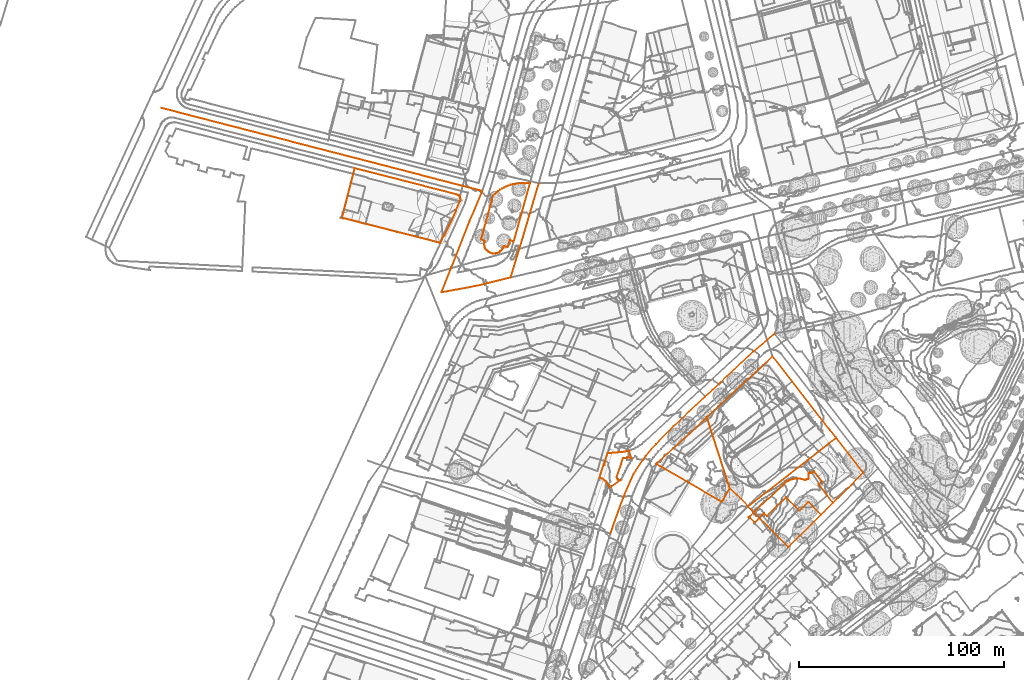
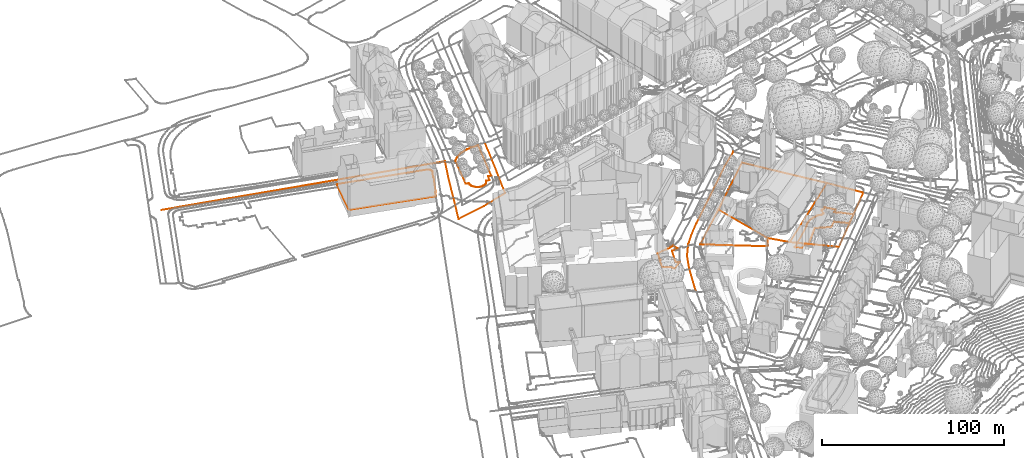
# Not in any storey, part 104 of 494: 13 proxies.
"""IFC2X3 model written with IfcOpenShell, lengths in metres."""

import ifcopenshell
import ifcopenshell.guid

model = None  # the IFC model being written
_history = None  # IfcOwnerHistory: only IFC2X3 demands one
_inside = {}  # id of a spatial element -> (the spatial element, [elements in it])
_under = {}  # id of a project, library or spatial element -> (it, [spatial elements below it])
_declared = {}  # id of a project -> (the project, [libraries it declares])
_typed = {}  # id of a type object -> (the type object, [elements of that type])
_made_of = {}  # id of a material, layer set ... -> (it, [elements and type objects made of it])


def new_model(schema):
    """Start an empty IFC model of exactly this schema.

    Asked for "IFC4X3", IfcOpenShell would pick the latest addendum, in which some entities
    have other attributes; the version numbers below select the first issue.
    IFC2X3 requires an IfcOwnerHistory on every rooted entity: one is made here for all.
    """
    global model, _history
    if schema == "IFC4X3":
        model = ifcopenshell.file(schema_version=(4, 3, 0, 0))
    else:
        model = ifcopenshell.file(schema=schema)
    _inside.clear()
    _under.clear()
    _declared.clear()
    _typed.clear()
    _made_of.clear()
    _history = None
    if model.schema == "IFC2X3":
        org = make("IfcOrganization", Name="unknown")
        user = make(
            "IfcPersonAndOrganization",
            ThePerson=make("IfcPerson", FamilyName="unknown"),
            TheOrganization=org,
        )
        app = make(
            "IfcApplication",
            ApplicationDeveloper=org,
            Version="unknown",
            ApplicationFullName="unknown",
            ApplicationIdentifier="unknown",
        )
        _history = make(
            "IfcOwnerHistory",
            OwningUser=user,
            OwningApplication=app,
            ChangeAction="ADDED",
            CreationDate=0,
        )
    return model


def make(cls, **values):
    """One entity of the class cls with the attributes given. An attribute that is None is left unset."""
    return model.create_entity(
        cls, **{name: value for name, value in values.items() if value is not None}
    )


def entity(cls, *values):
    """Any entity or typed value of the class cls, its attributes in the order of the schema. None: left unset."""
    e = model.create_entity(cls)
    for i, value in enumerate(values):
        if value is not None:
            e[i] = value
    return e


def rooted(cls, **values):
    """An entity with a GlobalId (a new one), such as an element, a storey or a relation."""
    return make(cls, GlobalId=ifcopenshell.guid.new(), OwnerHistory=_history, **values)


def si_unit(unit_type, name, prefix=None):
    """IfcSIUnit, for example si_unit("LENGTHUNIT", "METRE", prefix="MILLI")."""
    return make("IfcSIUnit", UnitType=unit_type, Prefix=prefix, Name=name)


def assignment(units):
    """IfcUnitAssignment: the units of a project."""
    return None if units is None else make("IfcUnitAssignment", Units=units)


def point(xyz):
    """IfcCartesianPoint."""
    return None if xyz is None else make("IfcCartesianPoint", Coordinates=xyz)


def direction(xyz):
    """IfcDirection."""
    return None if xyz is None else make("IfcDirection", DirectionRatios=xyz)


def frame(location, z_axis=None, x_axis=None):
    """IfcAxis2Placement3D, a coordinate frame: its origin and axes. An axis left out is left unset."""
    return make(
        "IfcAxis2Placement3D",
        Location=point(location),
        Axis=direction(z_axis),
        RefDirection=direction(x_axis),
    )


def origin_with_axes():
    """The frame at (0, 0, 0) with the z axis (0, 0, 1) and the x axis (1, 0, 0) written out."""
    return frame((0.0, 0.0, 0.0), z_axis=(0.0, 0.0, 1.0), x_axis=(1.0, 0.0, 0.0))


def place(relative_to, where):
    """IfcLocalPlacement: puts the frame where relative to a parent placement (None: the world)."""
    return make(
        "IfcLocalPlacement", PlacementRelTo=relative_to, RelativePlacement=where
    )


def context(
    kind, dimensions, precision=None, world=None, true_north=None, identifier=None
):
    """IfcGeometricRepresentationContext, for example the 3D "Model" context."""
    return make(
        "IfcGeometricRepresentationContext",
        ContextIdentifier=identifier,
        ContextType=kind,
        CoordinateSpaceDimension=dimensions,
        Precision=precision,
        WorldCoordinateSystem=world,
        TrueNorth=true_north,
    )


def subcontext(parent, identifier, kind, view, scale=None):
    """IfcGeometricRepresentationSubContext, for example "Body" below "Model"."""
    return make(
        "IfcGeometricRepresentationSubContext",
        ContextIdentifier=identifier,
        ContextType=kind,
        ParentContext=parent,
        TargetScale=scale,
        TargetView=view,
    )


def project(units=None, contexts=None):
    """IfcProject with its units and contexts."""
    return rooted(
        "IfcProject",
        Name="project",
        RepresentationContexts=contexts,
        UnitsInContext=assignment(units),
    )


def shape(context_of_items, identifier, shape_type, items):
    """IfcShapeRepresentation: the items that make up one representation, for example the "Body"."""
    return make(
        "IfcShapeRepresentation",
        ContextOfItems=context_of_items,
        RepresentationIdentifier=identifier,
        RepresentationType=shape_type,
        Items=items,
    )


def made_of(thing, what):
    """Note that an element or type object is made of a material, layer set ...; save() writes the relation."""
    if what is not None:
        _made_of.setdefault(what.id(), (what, []))[1].append(thing)
    return thing


def element(
    cls,
    number,
    at=None,
    inside=None,
    cuts=None,
    type_object=None,
    material=None,
    context=None,
    identifier="Body",
    shape_type=None,
    held_by="IfcProductDefinitionShape",
    body=None,
    shapes=None,
    **own,
):
    """One element of the class cls, such as IfcWall. Its Tag is "e" and its number.

    at: its placement. inside: the storey or other place that contains it. cuts: it is an
    opening in that element (IfcRelVoidsElement). A single representation is given by context,
    identifier, shape_type and body (its items); several are given by shapes. held_by: the class
    of the entity that holds the representations. save() writes the other relations.
    """
    e = rooted(cls, Tag="e%d" % number, ObjectPlacement=at, **own)
    if body is not None:
        shapes = [shape(context, identifier, shape_type, body)]
    if shapes is not None:
        e.Representation = make(held_by, Representations=shapes)
    if inside is not None:
        _inside.setdefault(inside.id(), (inside, []))[1].append(e)
    if cuts is not None:
        rooted(
            "IfcRelVoidsElement", RelatingBuildingElement=cuts, RelatedOpeningElement=e
        )
    if type_object is not None:
        _typed.setdefault(type_object.id(), (type_object, []))[1].append(e)
    return made_of(e, material)


def aggregate(whole, parts):
    """IfcRelAggregates: a whole, such as a stair, and the parts it consists of."""
    return rooted("IfcRelAggregates", RelatingObject=whole, RelatedObjects=parts)


def save(model, path):
    """Write the relations noted so far, then the file.

    IfcRelAggregates (storeys below a building ...), IfcRelContainedInSpatialStructure (elements
    in a storey), IfcRelDefinesByType, IfcRelAssociatesMaterial and IfcRelDeclares: one each for
    every whole, place, type object, material and project.
    """
    for whole, parts in _under.values():
        aggregate(whole, parts)
    for where, things in _inside.values():
        rooted(
            "IfcRelContainedInSpatialStructure",
            RelatedElements=things,
            RelatingStructure=where,
        )
    for kind, things in _typed.values():
        rooted("IfcRelDefinesByType", RelatedObjects=things, RelatingType=kind)
    for what, things in _made_of.values():
        rooted("IfcRelAssociatesMaterial", RelatedObjects=things, RelatingMaterial=what)
    for by, libraries in _declared.values():
        rooted("IfcRelDeclares", RelatingContext=by, RelatedDefinitions=libraries)
    model.write(path)


model = new_model("IFC2X3")

# Units and contexts
model_context = context("Model", 3, precision=1e-05, world=origin_with_axes())
body_context = subcontext(model_context, "Body", "Model", "MODEL_VIEW")
ifc_project = project(units=[si_unit("AREAUNIT", "SQUARE_METRE"), si_unit("LENGTHUNIT", "METRE")], contexts=[model_context])

# Proxies
proxy_1_placement = place(None, frame((30.7997320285, 308.9937337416, 538.306), z_axis=(0.0, 0.0, 1.0), x_axis=(1.0, 0.0, 0.0)))
element("IfcBuildingElementProxy", 1, at=proxy_1_placement, Name="Road 0", ObjectType="NOTDEFINED", context=body_context, shape_type="GeometricCurveSet", body=[
    entity("IfcGeometricCurveSet", [entity("IfcPolyline", [entity("IfcCartesianPoint", [13.8109999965, 46.0379986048, 1.02]), entity("IfcCartesianPoint", [6.0329999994, 19.6849994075, 0.463]), entity("IfcCartesianPoint", [0.0, 0.0, 0.0])])]),
])
proxy_2_placement = place(None, frame((-2.9162679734, 301.7517339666, 537.291), z_axis=(0.0, 0.0, 1.0), x_axis=(1.0, 0.0, 0.0)))
element("IfcBuildingElementProxy", 2, at=proxy_2_placement, Name="Road 1", ObjectType="NOTDEFINED", context=body_context, shape_type="GeometricCurveSet", body=[
    entity("IfcGeometricCurveSet", [entity("IfcPolyline", [entity("IfcCartesianPoint", [0.0, 0.0, 0.0]), entity("IfcCartesianPoint", [17.9780000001, 3.3079998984, 0.426]), entity("IfcCartesianPoint", [33.7160000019, 7.2419997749, 1.015])])]),
])
proxy_3_placement = place(None, frame((-140.2562679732, 391.9217312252, 536.588), z_axis=(0.0, 0.0, 1.0), x_axis=(1.0, 0.0, 0.0)))
element("IfcBuildingElementProxy", 3, at=proxy_3_placement, Name="Road 2", ObjectType="NOTDEFINED", context=body_context, shape_type="GeometricCurveSet", body=[
    entity("IfcGeometricCurveSet", [entity("IfcPolyline", [entity("IfcCartesianPoint", [0.0, 0.0, 0.0]), entity("IfcCartesianPoint", [37.9580000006, -9.8149997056, 0.568]), entity("IfcCartesianPoint", [98.2380000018, -25.4009992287, 1.468]), entity("IfcCartesianPoint", [157.2180000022, -40.6739987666, 2.417])])]),
])
proxy_4_placement = place(None, frame((79.6067320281, 183.7807375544, 531.924), z_axis=(0.0, 0.0, 1.0), x_axis=(1.0, 0.0, 0.0)))
element("IfcBuildingElementProxy", 4, at=proxy_4_placement, Name="Road 53", ObjectType="NOTDEFINED", context=body_context, shape_type="GeometricCurveSet", body=[
    entity("IfcGeometricCurveSet", [entity("IfcPolyline", [entity("IfcCartesianPoint", [0.0, 0.0, 0.0]), entity("IfcCartesianPoint", [0.9549999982, 3.0559999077, 0.14]), entity("IfcCartesianPoint", [6.8289999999, 19.2089994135, 1.009]), entity("IfcCartesianPoint", [11.2349999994, 29.1949991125, 1.572]), entity("IfcCartesianPoint", [17.1089999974, 38.004998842, 1.92]), entity("IfcCartesianPoint", [22.2469999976, 43.8789986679, 2.302]), entity("IfcCartesianPoint", [30.7649999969, 52.5429984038, 2.7]), entity("IfcCartesianPoint", [46.3499999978, 67.0489979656, 3.574])])]),
])
proxy_5_placement = place(None, frame((125.9567320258, 250.8297355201, 535.498), z_axis=(0.0, 0.0, 1.0), x_axis=(1.0, 0.0, 0.0)))
element("IfcBuildingElementProxy", 5, at=proxy_5_placement, Name="Road 54", ObjectType="NOTDEFINED", context=body_context, shape_type="GeometricCurveSet", body=[
    entity("IfcGeometricCurveSet", [entity("IfcPolyline", [entity("IfcCartesianPoint", [0.0, 0.0, 0.0]), entity("IfcCartesianPoint", [3.5050000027, 3.2619998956, 0.196]), entity("IfcCartesianPoint", [23.3289999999, 21.9109993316, 1.445]), entity("IfcCartesianPoint", [33.9010000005, 30.7219990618, 2.053])])]),
])
proxy_6_placement = place(None, frame((-2.9162679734, 301.7517339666, 537.291), z_axis=(0.0, 0.0, 1.0), x_axis=(1.0, 0.0, 0.0)))
element("IfcBuildingElementProxy", 6, at=proxy_6_placement, Name="Road 75", ObjectType="NOTDEFINED", context=body_context, shape_type="GeometricCurveSet", body=[
    entity("IfcGeometricCurveSet", [entity("IfcPolyline", [entity("IfcCartesianPoint", [19.8780000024, 49.495998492, 1.714]), entity("IfcCartesianPoint", [13.6610000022, 34.6799989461, 1.281]), entity("IfcCartesianPoint", [4.7970000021, 12.1899996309, 0.46]), entity("IfcCartesianPoint", [0.0, 0.0, 0.0])])]),
])
proxy_7_placement = place(None, frame((16.4207320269, 327.4727160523, 538.5652262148), z_axis=(0.0, 0.0, 1.0), x_axis=(1.0, 0.0, 0.0)))
element("IfcBuildingElementProxy", 7, at=proxy_7_placement, Name="Roads Outline 20", ObjectType="NOTDEFINED", context=body_context, shape_type="GeometricCurveSet", body=[
    entity("IfcGeometricCurveSet", [entity("IfcPolyline", [entity("IfcCartesianPoint", [0.0, 0.0, 0.0]), entity("IfcCartesianPoint", [5.7949999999, 21.4770000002, 0.4811315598]), entity("IfcCartesianPoint", [6.6039999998, 22.2840000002, 0.4689840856]), entity("IfcCartesianPoint", [7.46, 23.0420000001, 0.488465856]), entity("IfcCartesianPoint", [8.3599999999, 23.7470000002, 0.5143977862]), entity("IfcCartesianPoint", [9.2999999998, 24.3970000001, 0.5175050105]), entity("IfcCartesianPoint", [10.2769999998, 24.9900000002, 0.5488248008]), entity("IfcCartesianPoint", [11.287, 25.5240000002, 0.5907152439]), entity("IfcCartesianPoint", [12.3279999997, 25.9970000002, 0.6086575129]), entity("IfcCartesianPoint", [13.4109999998, 26.4230000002, 0.6290134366]), entity("IfcCartesianPoint", [14.5189999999, 26.7840000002, 0.6365852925]), entity("IfcCartesianPoint", [15.645, 27.077, 0.6394197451]), entity("IfcCartesianPoint", [16.7879999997, 27.3020000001, 0.627997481]), entity("IfcCartesianPoint", [17.9419999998, 27.4580000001, 0.6666220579]), entity("IfcCartesianPoint", [19.1029999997, 27.5440000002, 0.6866470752]), entity("IfcCartesianPoint", [20.267, 27.5600000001, 0.7246563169]), entity("IfcCartesianPoint", [21.4299999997, 27.5060000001, 0.7780982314]), entity("IfcCartesianPoint", [23.8859999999, 27.716, 0.7309337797]), entity("IfcCartesianPoint", [15.926, -0.8299999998, 0.138655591]), entity("IfcCartesianPoint", [14.0, -0.3069999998, 0.2326905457]), entity("IfcCartesianPoint", [13.0449999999, -3.6919999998, 0.0617321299]), entity("IfcCartesianPoint", [12.8649999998, -3.6349999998, 0.0625361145]), entity("IfcCartesianPoint", [11.1479999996, -3.1749999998, 0.0351764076]), entity("IfcCartesianPoint", [11.1179999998, -3.2849999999, 0.0287817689]), entity("IfcCartesianPoint", [10.9449999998, -3.237, 0.0292732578]), entity("IfcCartesianPoint", [10.7579999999, -3.784, -0.0176265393]), entity("IfcCartesianPoint", [10.5069999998, -4.3049999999, -0.0198383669]), entity("IfcCartesianPoint", [10.1939999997, -4.7919999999, -0.0403969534]), entity("IfcCartesianPoint", [9.8249999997, -5.2379999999, -0.0371341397]), entity("IfcCartesianPoint", [9.4049999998, -5.6349999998, -0.0377842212]), entity("IfcCartesianPoint", [8.9399999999, -5.98, -0.058575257]), entity("IfcCartesianPoint", [8.4369999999, -6.2649999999, -0.0385157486]), entity("IfcCartesianPoint", [7.9039999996, -6.4879999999, -0.0053882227]), entity("IfcCartesianPoint", [7.3469999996, -6.6449999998, -0.0031138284]), entity("IfcCartesianPoint", [6.7749999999, -6.7329999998, -0.0091726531]), entity("IfcCartesianPoint", [6.1969999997, -6.7519999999, -0.0044492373]), entity("IfcCartesianPoint", [5.6209999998, -6.7009999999, -0.0016769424]), entity("IfcCartesianPoint", [5.0549999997, -6.5809999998, -0.0054045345]), entity("IfcCartesianPoint", [4.5089999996, -6.3929999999, -0.0012237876]), entity("IfcCartesianPoint", [3.9889999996, -6.1409999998, 0.0041309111]), entity("IfcCartesianPoint", [3.503, -5.828, 0.0048660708]), entity("IfcCartesianPoint", [3.0589999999, -5.4589999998, 0.0043665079]), entity("IfcCartesianPoint", [2.662, -5.0389999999, 0.0054320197]), entity("IfcCartesianPoint", [2.3189999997, -4.5739999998, 0.0026655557]), entity("IfcCartesianPoint", [2.034, -4.071, 0.0169438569]), entity("IfcCartesianPoint", [1.8119999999, -3.5379999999, 0.0105721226]), entity("IfcCartesianPoint", [1.6569999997, -2.9809999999, -0.0468969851]), entity("IfcCartesianPoint", [1.5689999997, -2.4099999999, -0.0348831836]), entity("IfcCartesianPoint", [1.551, -1.8329999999, 0.0039672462]), entity("IfcCartesianPoint", [1.602, -1.257, 0.0059877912]), entity("IfcCartesianPoint", [1.7229999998, -0.6919999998, 0.0136510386]), entity("IfcCartesianPoint", [1.5499999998, -0.6439999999, 0.0130353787]), entity("IfcCartesianPoint", [1.5809999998, -0.5319999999, 0.0199811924]), entity("IfcCartesianPoint", [0.0, 0.0, 0.0])])]),
])
proxy_8_placement = place(None, frame((147.0637320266, 191.8347160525, 532.3529821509), z_axis=(0.0, 0.0, 1.0), x_axis=(1.0, 0.0, 0.0)))
element("IfcBuildingElementProxy", 8, at=proxy_8_placement, Name="Roads Outline 27", ObjectType="NOTDEFINED", context=body_context, shape_type="GeometricCurveSet", body=[
    entity("IfcGeometricCurveSet", [entity("IfcPolyline", [entity("IfcCartesianPoint", [0.0, 0.0, 0.0]), entity("IfcCartesianPoint", [2.352, 2.3049999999, -0.5362784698]), entity("IfcCartesianPoint", [16.1839999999, 14.9979999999, -0.5393324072]), entity("IfcCartesianPoint", [16.716, 15.6679999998, -0.4083490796]), entity("IfcCartesianPoint", [17.307, 16.2879999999, -0.3336229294]), entity("IfcCartesianPoint", [17.9509999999, 16.851, -0.2160984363]), entity("IfcCartesianPoint", [18.6440000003, 17.3539999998, -0.06642974]), entity("IfcCartesianPoint", [19.3799999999, 17.791, 0.0510904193]), entity("IfcCartesianPoint", [20.1520000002, 18.1599999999, 0.1856444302]), entity("IfcCartesianPoint", [20.9539999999, 18.4579999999, 0.2913719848]), entity("IfcCartesianPoint", [21.7800000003, 18.682, 0.4131603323]), entity("IfcCartesianPoint", [22.6230000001, 18.8299999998, 0.546310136]), entity("IfcCartesianPoint", [23.4760000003, 18.8999999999, 0.6841907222]), entity("IfcCartesianPoint", [24.3319999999, 18.8939999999, 0.8167461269]), entity("IfcCartesianPoint", [25.1839999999, 18.8089999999, 0.9553123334]), entity("IfcCartesianPoint", [26.0249999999, 18.6479999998, 1.0562989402]), entity("IfcCartesianPoint", [26.8470000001, 18.4109999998, 1.1060626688]), entity("IfcCartesianPoint", [27.2170000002, 18.3059999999, 1.1296684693]), entity("IfcCartesianPoint", [27.5989999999, 18.2659999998, 1.170077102]), entity("IfcCartesianPoint", [27.9820000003, 18.291, 1.2088810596]), entity("IfcCartesianPoint", [28.3560000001, 18.3809999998, 1.2290745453]), entity("IfcCartesianPoint", [28.7090000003, 18.5329999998, 1.2377012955]), entity("IfcCartesianPoint", [29.031, 18.743, 1.2421360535]), entity("IfcCartesianPoint", [29.3130000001, 19.004, 1.2503889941]), entity("IfcCartesianPoint", [29.429, 21.493, 1.4160732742]), entity("IfcCartesianPoint", [29.673, 21.6849999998, 1.4719951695]), entity("IfcCartesianPoint", [29.8910000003, 21.8559999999, 1.5225517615]), entity("IfcCartesianPoint", [30.077, 21.743, 1.5389392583]), entity("IfcCartesianPoint", [30.2830000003, 21.6709999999, 1.5627643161]), entity("IfcCartesianPoint", [30.4990000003, 21.6439999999, 1.5927657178]), entity("IfcCartesianPoint", [30.7090000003, 21.662, 1.6264963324]), entity("IfcCartesianPoint", [30.9110000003, 21.7219999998, 1.6633448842]), entity("IfcCartesianPoint", [31.0970000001, 21.821, 1.7017890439]), entity("IfcCartesianPoint", [32.0410000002, 22.561, 1.9213537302]), entity("IfcCartesianPoint", [36.0279999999, 17.4719999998, 2.0885429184]), entity("IfcCartesianPoint", [34.2820000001, 16.102, 1.733390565]), entity("IfcCartesianPoint", [37.656, 11.8059999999, 2.7151641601]), entity("IfcCartesianPoint", [41.304, 7.0819999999, 3.2596936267]), entity("IfcCartesianPoint", [35.4369999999, 1.2459999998, 3.0007989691]), entity("IfcCartesianPoint", [29.3110000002, 7.5319999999, 2.2726816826]), entity("IfcCartesianPoint", [24.9590000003, 3.2039999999, 2.9313802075]), entity("IfcCartesianPoint", [18.2910000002, 9.929, 0.4711685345]), entity("IfcCartesianPoint", [8.9750000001, 0.6909999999, -1.6082176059]), entity("IfcCartesianPoint", [7.679, 1.997, -2.2092343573]), entity("IfcCartesianPoint", [3.085, -2.5580000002, 0.1644745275]), entity("IfcCartesianPoint", [0.5920000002, -0.0450000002, 0.0355490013]), entity("IfcCartesianPoint", [0.3110000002, -0.324, 0.0186497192]), entity("IfcCartesianPoint", [0.0, 0.0, 0.0])])]),
])
proxy_9_placement = place(None, frame((74.1997320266, 211.2407160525, 532.6264656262), z_axis=(0.0, 0.0, 1.0), x_axis=(1.0, 0.0, 0.0)))
element("IfcBuildingElementProxy", 9, at=proxy_9_placement, Name="Roads Outline 36", ObjectType="NOTDEFINED", context=body_context, shape_type="GeometricCurveSet", body=[
    entity("IfcGeometricCurveSet", [entity("IfcPolyline", [entity("IfcCartesianPoint", [0.0, 0.0, 0.0]), entity("IfcCartesianPoint", [2.1010000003, 6.2619999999, 0.147289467]), entity("IfcCartesianPoint", [2.4510000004, 6.145, 0.1452710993]), entity("IfcCartesianPoint", [2.6400000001, 6.7139999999, 0.203672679]), entity("IfcCartesianPoint", [2.2920000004, 6.831, 0.2058299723]), entity("IfcCartesianPoint", [4.0010000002, 11.9199999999, 0.7650686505]), entity("IfcCartesianPoint", [4.5360000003, 11.959, 0.8329401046]), entity("IfcCartesianPoint", [6.9470000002, 12.1339999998, 1.0798784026]), entity("IfcCartesianPoint", [9.4540000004, 12.3159999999, 1.2129056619]), entity("IfcCartesianPoint", [9.4939999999, 12.3189999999, 1.2128324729]), entity("IfcCartesianPoint", [9.5700000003, 12.325, 1.2126738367]), entity("IfcCartesianPoint", [9.6470000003, 12.3300000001, 1.2124051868]), entity("IfcCartesianPoint", [10.8740000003, 12.4479999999, 1.2340188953]), entity("IfcCartesianPoint", [12.094, 12.6240000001, 1.3129275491]), entity("IfcCartesianPoint", [13.304, 12.8559999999, 1.3495718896]), entity("IfcCartesianPoint", [14.5020000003, 13.145, 1.4069599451]), entity("IfcCartesianPoint", [15.7400000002, 9.246, 1.3374332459]), entity("IfcCartesianPoint", [15.6189999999, 9.4339999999, 1.3525783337]), entity("IfcCartesianPoint", [15.4580000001, 9.5889999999, 1.3664513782]), entity("IfcCartesianPoint", [15.2660000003, 9.703, 1.3778297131]), entity("IfcCartesianPoint", [15.0520000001, 9.7689999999, 1.3865026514]), entity("IfcCartesianPoint", [14.8290000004, 9.784, 1.3907516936]), entity("IfcCartesianPoint", [11.537, 9.517, 1.2894016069]), entity("IfcCartesianPoint", [8.4340000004, 0.1899999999, 0.8132751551]), entity("IfcCartesianPoint", [8.6410000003, -0.2239999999, 0.7993723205]), entity("IfcCartesianPoint", [8.8250000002, -0.648, 0.767076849]), entity("IfcCartesianPoint", [8.9790000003, -0.8930000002, 0.7528556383]), entity("IfcCartesianPoint", [9.1890000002, -1.0919999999, 0.7355244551]), entity("IfcCartesianPoint", [9.443, -1.2310000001, 0.7277378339]), entity("IfcCartesianPoint", [9.7240000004, -1.301, 0.7291124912]), entity("IfcCartesianPoint", [10.014, -1.298, 0.738189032]), entity("IfcCartesianPoint", [10.2930000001, -1.2220000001, 0.7534318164]), entity("IfcCartesianPoint", [4.9740000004, -4.9669999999, 0.3503762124]), entity("IfcCartesianPoint", [4.7400000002, -4.378, 0.3553255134]), entity("IfcCartesianPoint", [4.463, -3.8090000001, 0.3611164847]), entity("IfcCartesianPoint", [4.1430000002, -3.263, 0.3640812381]), entity("IfcCartesianPoint", [3.8050000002, -2.7609999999, 0.3767518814]), entity("IfcCartesianPoint", [3.4280000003, -2.2879999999, 0.3632859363]), entity("IfcCartesianPoint", [3.0150000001, -1.845, 0.3208912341]), entity("IfcCartesianPoint", [2.568, -1.4370000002, 0.2588913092]), entity("IfcCartesianPoint", [1.9810000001, -0.987, 0.202043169]), entity("IfcCartesianPoint", [1.3530000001, -0.595, 0.1286392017]), entity("IfcCartesianPoint", [0.6910000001, -0.2650000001, 0.0412627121]), entity("IfcCartesianPoint", [0.0, 0.0, 0.0])])]),
])
proxy_10_placement = place(None, frame((126.6897320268, 240.7007160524, 535.157919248), z_axis=(0.0, 0.0, 1.0), x_axis=(1.0, 0.0, 0.0)))
element("IfcBuildingElementProxy", 10, at=proxy_10_placement, Name="Cadastre 32", ObjectType="NOTDEFINED", context=body_context, shape_type="GeometricCurveSet", body=[
    entity("IfcGeometricCurveSet", [entity("IfcPolyline", [entity("IfcCartesianPoint", [0.0, 0.0, 0.0]), entity("IfcCartesianPoint", [32.2089999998, 29.7479999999, 2.1839341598]), entity("IfcCartesianPoint", [63.1889999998, -10.0430000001, 1.6993864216]), entity("IfcCartesianPoint", [20.2829999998, -43.5730000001, -2.5127008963]), entity("IfcCartesianPoint", [11.213, -34.6229999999, -2.0923926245]), entity("IfcCartesianPoint", [0.0, 0.0, 0.0])])]),
])
proxy_11_placement = place(None, frame((101.9887320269, 217.8847160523, 534.2400274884), z_axis=(0.0, 0.0, 1.0), x_axis=(1.0, 0.0, 0.0)))
element("IfcBuildingElementProxy", 11, at=proxy_11_placement, Name="Cadastre 33", ObjectType="NOTDEFINED", context=body_context, shape_type="GeometricCurveSet", body=[
    entity("IfcGeometricCurveSet", [entity("IfcPolyline", [entity("IfcCartesianPoint", [0.0, 0.0, 0.0]), entity("IfcCartesianPoint", [24.7009999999, 22.8160000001, 0.9178917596]), entity("IfcCartesianPoint", [35.9139999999, -11.8069999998, -1.1745008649]), entity("IfcCartesianPoint", [31.986, -18.568, -1.1853139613]), entity("IfcCartesianPoint", [0.0, 0.0, 0.0])])]),
])
proxy_12_placement = place(None, frame((146.9727320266, 197.1277160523, 532.6452183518), z_axis=(0.0, 0.0, 1.0), x_axis=(1.0, 0.0, 0.0)))
element("IfcBuildingElementProxy", 12, at=proxy_12_placement, Name="Cadastre 106", ObjectType="NOTDEFINED", context=body_context, shape_type="GeometricCurveSet", body=[
    entity("IfcGeometricCurveSet", [entity("IfcPolyline", [entity("IfcCartesianPoint", [0.0, 0.0, 0.0]), entity("IfcCartesianPoint", [42.906, 33.53, 4.2120873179]), entity("IfcCartesianPoint", [56.176, 16.49, 3.623592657]), entity("IfcCartesianPoint", [19.5649999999, -19.9199999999, 1.9814014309]), entity("IfcCartesianPoint", [0.0, 0.0, 0.0])])]),
])
proxy_13_placement = place(None, frame((-51.5402679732, 338.1427160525, 538.3007143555), z_axis=(0.0, 0.0, 1.0), x_axis=(1.0, 0.0, 0.0)))
element("IfcBuildingElementProxy", 13, at=proxy_13_placement, Name="Cadastre 110", ObjectType="NOTDEFINED", context=body_context, shape_type="GeometricCurveSet", body=[
    entity("IfcGeometricCurveSet", [entity("IfcPolyline", [entity("IfcCartesianPoint", [0.0, 0.0, 0.0]), entity("IfcCartesianPoint", [5.446, 21.443, 0.2852548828]), entity("IfcCartesianPoint", [6.1529999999, 24.226, 0.4069108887]), entity("IfcCartesianPoint", [56.057, 11.439, 0.486451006]), entity("IfcCartesianPoint", [56.4539999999, 11.291, 0.4915090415]), entity("IfcCartesianPoint", [56.821, 11.078, 0.5031785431]), entity("IfcCartesianPoint", [57.1459999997, 10.8059999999, 0.5048917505]), entity("IfcCartesianPoint", [57.4210000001, 10.483, 0.4955333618]), entity("IfcCartesianPoint", [57.6370000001, 10.1189999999, 0.4877361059]), entity("IfcCartesianPoint", [57.7760000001, 9.7179999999, 0.4887734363]), entity("IfcCartesianPoint", [57.8459999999, 9.3, 0.4982179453]), entity("IfcCartesianPoint", [57.844, 8.8759999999, 0.5108087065]), entity("IfcCartesianPoint", [57.7709999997, 8.4579999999, 0.5224462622]), entity("IfcCartesianPoint", [57.628, 8.0589999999, 0.5045892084]), entity("IfcCartesianPoint", [55.608, 3.7879999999, 0.2663862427]), entity("IfcCartesianPoint", [55.8679999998, 3.6680000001, 0.2767955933]), entity("IfcCartesianPoint", [50.04, -8.6840000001, -0.196456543]), entity("IfcCartesianPoint", [49.77, -8.554, -0.1919338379]), entity("IfcCartesianPoint", [48.02, -12.2450000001, -0.3345703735]), entity("IfcCartesianPoint", [26.9669999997, -6.878, -0.1335894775]), entity("IfcCartesianPoint", [12.0860000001, -3.0790000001, -0.0698450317]), entity("IfcCartesianPoint", [0.0, 0.0, 0.0])])]),
])

save(model, "model.ifc")
